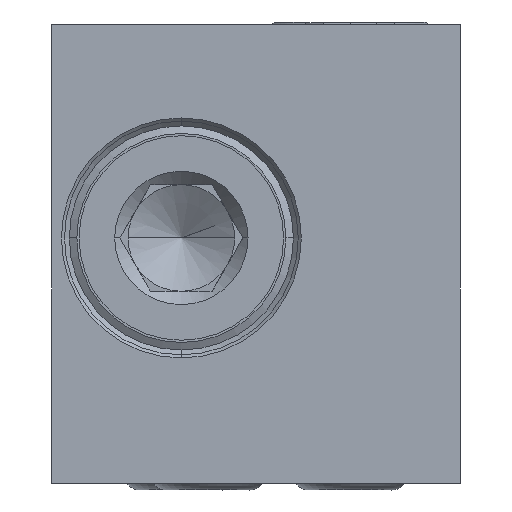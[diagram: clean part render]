
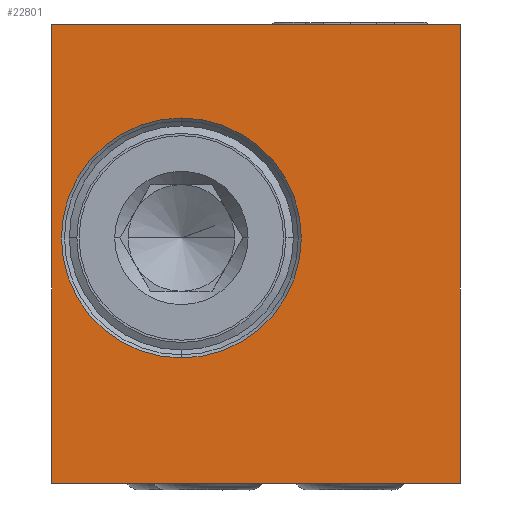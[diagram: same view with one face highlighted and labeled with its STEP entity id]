
A CAD part, left-side view. The second image highlights one B-rep face of the part: STEP entity #22801.
In plain terms, the highlighted planar face has unit normal (-1, 0, 0).
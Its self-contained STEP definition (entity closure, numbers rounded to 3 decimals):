
#4229=DIRECTION('',(0.,0.,1.));
#4230=VECTOR('',#4229,25.8);
#4231=CARTESIAN_POINT('',(-38.,11.5,-12.9));
#4232=LINE('',#4231,#4230);
#4233=DIRECTION('',(0.,-1.,0.));
#4234=VECTOR('',#4233,23.);
#4235=CARTESIAN_POINT('',(-38.,11.5,12.9));
#4236=LINE('',#4235,#4234);
#4237=DIRECTION('',(0.,0.,-1.));
#4238=VECTOR('',#4237,25.8);
#4239=CARTESIAN_POINT('',(-38.,-11.5,12.9));
#4240=LINE('',#4239,#4238);
#4241=DIRECTION('',(0.,1.,0.));
#4242=VECTOR('',#4241,23.);
#4243=CARTESIAN_POINT('',(-38.,-11.5,-12.9));
#4244=LINE('',#4243,#4242);
#4245=CARTESIAN_POINT('',(-38.,4.2,0.9));
#4246=DIRECTION('',(-1.,0.,0.));
#4247=DIRECTION('',(0.,0.,-1.));
#4248=AXIS2_PLACEMENT_3D('',#4245,#4246,#4247);
#4250=CARTESIAN_POINT('',(-38.,4.2,0.9));
#4251=DIRECTION('',(-1.,0.,0.));
#4252=DIRECTION('',(0.,0.,1.));
#4253=AXIS2_PLACEMENT_3D('',#4250,#4251,#4252);
#15595=CARTESIAN_POINT('',(-38.,11.5,12.9));
#15596=VERTEX_POINT('',#15595);
#15597=CARTESIAN_POINT('',(-38.,11.5,-12.9));
#15598=VERTEX_POINT('',#15597);
#15599=CARTESIAN_POINT('',(-38.,-11.5,12.9));
#15600=VERTEX_POINT('',#15599);
#15621=CARTESIAN_POINT('',(-38.,-11.5,-12.9));
#15622=VERTEX_POINT('',#15621);
#15667=CARTESIAN_POINT('',(-38.,4.2,-5.85));
#15668=CARTESIAN_POINT('',(-38.,4.2,7.65));
#15669=VERTEX_POINT('',#15667);
#15670=VERTEX_POINT('',#15668);
#22782=CARTESIAN_POINT('',(-38.,0.,0.));
#22783=DIRECTION('',(-1.,0.,0.));
#22784=DIRECTION('',(0.,-1.,0.));
#22785=AXIS2_PLACEMENT_3D('',#22782,#22783,#22784);
#22786=PLANE('',#22785);
#22787=ORIENTED_EDGE('',*,*,#22775,.T.);
#22788=ORIENTED_EDGE('',*,*,#20451,.T.);
#22790=ORIENTED_EDGE('',*,*,#22789,.T.);
#22792=ORIENTED_EDGE('',*,*,#22791,.T.);
#22793=EDGE_LOOP('',(#22787,#22788,#22790,#22792));
#22794=FACE_OUTER_BOUND('',#22793,.F.);
#22796=ORIENTED_EDGE('',*,*,#22795,.T.);
#22798=ORIENTED_EDGE('',*,*,#22797,.T.);
#22799=EDGE_LOOP('',(#22796,#22798));
#22800=FACE_BOUND('',#22799,.F.);
#22801=ADVANCED_FACE('',(#22794,#22800),#22786,.T.);
#4249=CIRCLE('',#4248,6.75);
#4254=CIRCLE('',#4253,6.75);
#20451=EDGE_CURVE('',#15596,#15600,#4236,.T.);
#22775=EDGE_CURVE('',#15598,#15596,#4232,.T.);
#22789=EDGE_CURVE('',#15600,#15622,#4240,.T.);
#22791=EDGE_CURVE('',#15622,#15598,#4244,.T.);
#22795=EDGE_CURVE('',#15669,#15670,#4249,.T.);
#22797=EDGE_CURVE('',#15670,#15669,#4254,.T.);
